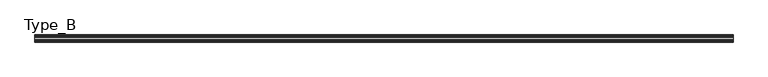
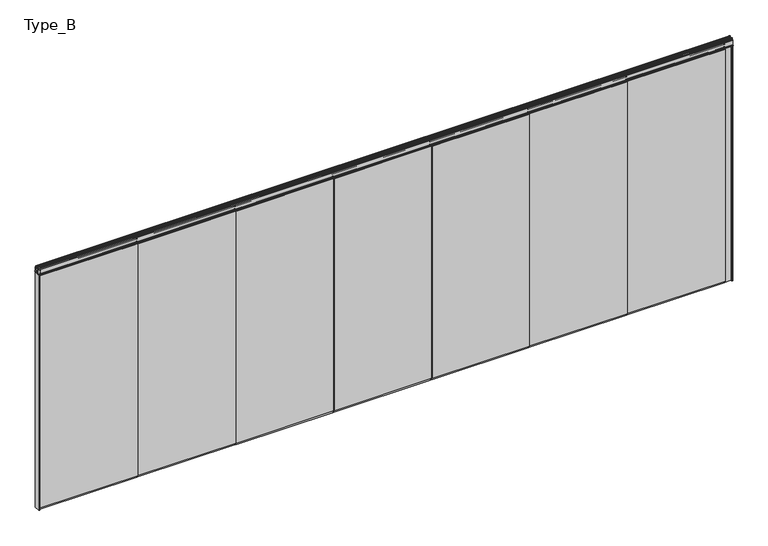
"""IFC4 building model written with IfcOpenShell, lengths in millimetres: proxy geometry, Planner Wall フラッシュパネル(NO Door) : Type_B."""

from ifc_helpers import new_model, si_unit, point, frame, frame_2d, origin, origin_with_axes, place, context, project, spatial, polyline, circle_curve, trimmed, segment, composite_curve, outline, extrude, source, transform, mapped, element, save


def type_b_39922017(model_context):
    return source(origin(), model_context, "Body", "SweptSolid", [
        extrude(outline(polyline([(-1053.6428571, 25.0), (-2223.5, 25.0), (-2223.5, 35.0), (-1053.6428571, 35.0), (-1053.6428571, 25.0)])), frame((0.0, 0.0, 25.0), z_axis=(0.0, 0.0, 1.0), x_axis=(1.0, 0.0, 0.0)), (0.0, 0.0, 1.0), 2950.0),
        extrude(outline(polyline([(-1053.6428571, -35.0), (-2223.5, -35.0), (-2223.5, -25.0), (-1053.6428571, -25.0), (-1053.6428571, -35.0)])), frame((0.0, 0.0, 25.0), z_axis=(0.0, 0.0, 1.0), x_axis=(1.0, 0.0, 0.0)), (0.0, 0.0, 1.0), 2950.0),
        extrude(outline(polyline([(-2223.5, -25.0), (-2223.5, 25.0), (-1059.1428571, 25.0), (-1059.1428571, -25.0), (-2223.5, -25.0)])), origin_with_axes(), (0.0, 0.0, 1.0), 65.0),
        extrude(outline(composite_curve([segment(polyline([(23.5, 3050.1000003), (26.5, 3047.1000003), (26.5, 3032.6)]), True, "CONTINUOUS"), segment(trimmed(circle_curve(frame_2d((25.0, 3032.6)), 1.5), [point((26.5, 3032.6))], [point((25.0, 3031.1))], False, "CARTESIAN"), True, "CONTINUOUS"), segment(polyline([(25.0, 3031.1), (9.0, 3031.1), (9.0, 3019.1000003), (23.5, 3019.1000003), (26.5, 3016.1000003), (26.5, 3001.5)]), True, "CONTINUOUS"), segment(trimmed(circle_curve(frame_2d((25.0, 3001.5)), 1.5), [point((26.5, 3001.5))], [point((25.0, 3000.0))], False, "CARTESIAN"), True, "CONTINUOUS"), segment(polyline([(25.0, 3000.0), (7.5, 3000.0), (7.5, 2994.5), (25.0, 2994.5), (25.0, 2935.0), (-25.0, 2935.0), (-25.0, 2994.5), (-7.5, 2994.5), (-7.5, 3000.0), (-25.0, 3000.0)]), True, "CONTINUOUS"), segment(trimmed(circle_curve(frame_2d((-25.0, 3001.5)), 1.5), [point((-25.0, 3000.0))], [point((-26.5, 3001.5))], False, "CARTESIAN"), True, "CONTINUOUS"), segment(polyline([(-26.5, 3001.5), (-26.5, 3016.1000003), (-23.5, 3019.1000003), (-9.0, 3019.1000003), (-9.0, 3031.1), (-25.0, 3031.1)]), True, "CONTINUOUS"), segment(trimmed(circle_curve(frame_2d((-25.0, 3032.6)), 1.5), [point((-25.0, 3031.1))], [point((-26.5, 3032.6))], False, "CARTESIAN"), True, "CONTINUOUS"), segment(polyline([(-26.5, 3032.6), (-26.5, 3047.1000003), (-23.5, 3050.1000003), (23.5, 3050.1000003)]), True, "CONTINUOUS")], self_intersect=False)), frame((-2223.5, 0.0, 0.0), z_axis=(1.0, 0.0, 0.0), x_axis=(0.0, 1.0, 0.0)), (0.0, 0.0, 1.0), 1169.8571429),
        extrude(outline(polyline([(-2237.0, -25.0), (-2237.0, 25.0), (-2223.5, 25.0), (-2223.5, -25.0), (-2237.0, -25.0)])), frame((0.0, 0.0, 53.0), z_axis=(0.0, 0.0, 1.0), x_axis=(1.0, 0.0, 0.0)), (0.0, 0.0, 1.0), 2869.0),
        extrude(outline(polyline([(124.2142857, 25.0), (-1045.6428571, 25.0), (-1045.6428571, 35.0), (124.2142857, 35.0), (124.2142857, 25.0)])), frame((0.0, 0.0, 25.0), z_axis=(0.0, 0.0, 1.0), x_axis=(1.0, 0.0, 0.0)), (0.0, 0.0, 1.0), 2950.0),
        extrude(outline(polyline([(124.2142857, -35.0), (-1045.6428571, -35.0), (-1045.6428571, -25.0), (124.2142857, -25.0), (124.2142857, -35.0)])), frame((0.0, 0.0, 25.0), z_axis=(0.0, 0.0, 1.0), x_axis=(1.0, 0.0, 0.0)), (0.0, 0.0, 1.0), 2950.0),
        extrude(outline(polyline([(-1045.6428571, -25.0), (-1045.6428571, 25.0), (118.7142857, 25.0), (118.7142857, -25.0), (-1045.6428571, -25.0)])), origin_with_axes(), (0.0, 0.0, 1.0), 65.0),
        extrude(outline(composite_curve([segment(polyline([(23.5, 3050.1000003), (26.5, 3047.1000003), (26.5, 3032.6)]), True, "CONTINUOUS"), segment(trimmed(circle_curve(frame_2d((25.0, 3032.6)), 1.5), [point((26.5, 3032.6))], [point((25.0, 3031.1))], False, "CARTESIAN"), True, "CONTINUOUS"), segment(polyline([(25.0, 3031.1), (9.0, 3031.1), (9.0, 3019.1000003), (23.5, 3019.1000003), (26.5, 3016.1000003), (26.5, 3001.5)]), True, "CONTINUOUS"), segment(trimmed(circle_curve(frame_2d((25.0, 3001.5)), 1.5), [point((26.5, 3001.5))], [point((25.0, 3000.0))], False, "CARTESIAN"), True, "CONTINUOUS"), segment(polyline([(25.0, 3000.0), (7.5, 3000.0), (7.5, 2994.5), (25.0, 2994.5), (25.0, 2935.0), (-25.0, 2935.0), (-25.0, 2994.5), (-7.5, 2994.5), (-7.5, 3000.0), (-25.0, 3000.0)]), True, "CONTINUOUS"), segment(trimmed(circle_curve(frame_2d((-25.0, 3001.5)), 1.5), [point((-25.0, 3000.0))], [point((-26.5, 3001.5))], False, "CARTESIAN"), True, "CONTINUOUS"), segment(polyline([(-26.5, 3001.5), (-26.5, 3016.1000003), (-23.5, 3019.1000003), (-9.0, 3019.1000003), (-9.0, 3031.1), (-25.0, 3031.1)]), True, "CONTINUOUS"), segment(trimmed(circle_curve(frame_2d((-25.0, 3032.6)), 1.5), [point((-25.0, 3031.1))], [point((-26.5, 3032.6))], False, "CARTESIAN"), True, "CONTINUOUS"), segment(polyline([(-26.5, 3032.6), (-26.5, 3047.1000003), (-23.5, 3050.1000003), (23.5, 3050.1000003)]), True, "CONTINUOUS")], self_intersect=False)), frame((-1045.6428571, 0.0, 0.0), z_axis=(1.0, 0.0, 0.0), x_axis=(0.0, 1.0, 0.0)), (0.0, 0.0, 1.0), 1169.8571429),
        extrude(outline(polyline([(-1059.1428571, -25.0), (-1059.1428571, 25.0), (-1045.6428571, 25.0), (-1045.6428571, -25.0), (-1059.1428571, -25.0)])), frame((0.0, 0.0, 53.0), z_axis=(0.0, 0.0, 1.0), x_axis=(1.0, 0.0, 0.0)), (0.0, 0.0, 1.0), 2869.0),
        extrude(outline(polyline([(1302.0714286, 25.0), (132.2142857, 25.0), (132.2142857, 35.0), (1302.0714286, 35.0), (1302.0714286, 25.0)])), frame((0.0, 0.0, 25.0), z_axis=(0.0, 0.0, 1.0), x_axis=(1.0, 0.0, 0.0)), (0.0, 0.0, 1.0), 2950.0),
        extrude(outline(polyline([(1302.0714286, -35.0), (132.2142857, -35.0), (132.2142857, -25.0), (1302.0714286, -25.0), (1302.0714286, -35.0)])), frame((0.0, 0.0, 25.0), z_axis=(0.0, 0.0, 1.0), x_axis=(1.0, 0.0, 0.0)), (0.0, 0.0, 1.0), 2950.0),
        extrude(outline(polyline([(132.2142857, -25.0), (132.2142857, 25.0), (1296.5714286, 25.0), (1296.5714286, -25.0), (132.2142857, -25.0)])), origin_with_axes(), (0.0, 0.0, 1.0), 65.0),
        extrude(outline(composite_curve([segment(polyline([(23.5, 3050.1000003), (26.5, 3047.1000003), (26.5, 3032.6)]), True, "CONTINUOUS"), segment(trimmed(circle_curve(frame_2d((25.0, 3032.6)), 1.5), [point((26.5, 3032.6))], [point((25.0, 3031.1))], False, "CARTESIAN"), True, "CONTINUOUS"), segment(polyline([(25.0, 3031.1), (9.0, 3031.1), (9.0, 3019.1000003), (23.5, 3019.1000003), (26.5, 3016.1000003), (26.5, 3001.5)]), True, "CONTINUOUS"), segment(trimmed(circle_curve(frame_2d((25.0, 3001.5)), 1.5), [point((26.5, 3001.5))], [point((25.0, 3000.0))], False, "CARTESIAN"), True, "CONTINUOUS"), segment(polyline([(25.0, 3000.0), (7.5, 3000.0), (7.5, 2994.5), (25.0, 2994.5), (25.0, 2935.0), (-25.0, 2935.0), (-25.0, 2994.5), (-7.5, 2994.5), (-7.5, 3000.0), (-25.0, 3000.0)]), True, "CONTINUOUS"), segment(trimmed(circle_curve(frame_2d((-25.0, 3001.5)), 1.5), [point((-25.0, 3000.0))], [point((-26.5, 3001.5))], False, "CARTESIAN"), True, "CONTINUOUS"), segment(polyline([(-26.5, 3001.5), (-26.5, 3016.1000003), (-23.5, 3019.1000003), (-9.0, 3019.1000003), (-9.0, 3031.1), (-25.0, 3031.1)]), True, "CONTINUOUS"), segment(trimmed(circle_curve(frame_2d((-25.0, 3032.6)), 1.5), [point((-25.0, 3031.1))], [point((-26.5, 3032.6))], False, "CARTESIAN"), True, "CONTINUOUS"), segment(polyline([(-26.5, 3032.6), (-26.5, 3047.1000003), (-23.5, 3050.1000003), (23.5, 3050.1000003)]), True, "CONTINUOUS")], self_intersect=False)), frame((132.2142857, 0.0, 0.0), z_axis=(1.0, 0.0, 0.0), x_axis=(0.0, 1.0, 0.0)), (0.0, 0.0, 1.0), 1169.8571429),
        extrude(outline(polyline([(118.7142857, -25.0), (118.7142857, 25.0), (132.2142857, 25.0), (132.2142857, -25.0), (118.7142857, -25.0)])), frame((0.0, 0.0, 53.0), z_axis=(0.0, 0.0, 1.0), x_axis=(1.0, 0.0, 0.0)), (0.0, 0.0, 1.0), 2869.0),
        extrude(outline(polyline([(2479.9285714, 25.0), (1310.0714286, 25.0), (1310.0714286, 35.0), (2479.9285714, 35.0), (2479.9285714, 25.0)])), frame((0.0, 0.0, 25.0), z_axis=(0.0, 0.0, 1.0), x_axis=(1.0, 0.0, 0.0)), (0.0, 0.0, 1.0), 2950.0),
        extrude(outline(polyline([(2479.9285714, -35.0), (1310.0714286, -35.0), (1310.0714286, -25.0), (2479.9285714, -25.0), (2479.9285714, -35.0)])), frame((0.0, 0.0, 25.0), z_axis=(0.0, 0.0, 1.0), x_axis=(1.0, 0.0, 0.0)), (0.0, 0.0, 1.0), 2950.0),
        extrude(outline(polyline([(1310.0714286, -25.0), (1310.0714286, 25.0), (2474.4285714, 25.0), (2474.4285714, -25.0), (1310.0714286, -25.0)])), origin_with_axes(), (0.0, 0.0, 1.0), 65.0),
        extrude(outline(composite_curve([segment(polyline([(23.5, 3050.1000003), (26.5, 3047.1000003), (26.5, 3032.6)]), True, "CONTINUOUS"), segment(trimmed(circle_curve(frame_2d((25.0, 3032.6)), 1.5), [point((26.5, 3032.6))], [point((25.0, 3031.1))], False, "CARTESIAN"), True, "CONTINUOUS"), segment(polyline([(25.0, 3031.1), (9.0, 3031.1), (9.0, 3019.1000003), (23.5, 3019.1000003), (26.5, 3016.1000003), (26.5, 3001.5)]), True, "CONTINUOUS"), segment(trimmed(circle_curve(frame_2d((25.0, 3001.5)), 1.5), [point((26.5, 3001.5))], [point((25.0, 3000.0))], False, "CARTESIAN"), True, "CONTINUOUS"), segment(polyline([(25.0, 3000.0), (7.5, 3000.0), (7.5, 2994.5), (25.0, 2994.5), (25.0, 2935.0), (-25.0, 2935.0), (-25.0, 2994.5), (-7.5, 2994.5), (-7.5, 3000.0), (-25.0, 3000.0)]), True, "CONTINUOUS"), segment(trimmed(circle_curve(frame_2d((-25.0, 3001.5)), 1.5), [point((-25.0, 3000.0))], [point((-26.5, 3001.5))], False, "CARTESIAN"), True, "CONTINUOUS"), segment(polyline([(-26.5, 3001.5), (-26.5, 3016.1000003), (-23.5, 3019.1000003), (-9.0, 3019.1000003), (-9.0, 3031.1), (-25.0, 3031.1)]), True, "CONTINUOUS"), segment(trimmed(circle_curve(frame_2d((-25.0, 3032.6)), 1.5), [point((-25.0, 3031.1))], [point((-26.5, 3032.6))], False, "CARTESIAN"), True, "CONTINUOUS"), segment(polyline([(-26.5, 3032.6), (-26.5, 3047.1000003), (-23.5, 3050.1000003), (23.5, 3050.1000003)]), True, "CONTINUOUS")], self_intersect=False)), frame((1310.0714286, 0.0, 0.0), z_axis=(1.0, 0.0, 0.0), x_axis=(0.0, 1.0, 0.0)), (0.0, 0.0, 1.0), 1169.8571429),
        extrude(outline(polyline([(1296.5714286, -25.0), (1296.5714286, 25.0), (1310.0714286, 25.0), (1310.0714286, -25.0), (1296.5714286, -25.0)])), frame((0.0, 0.0, 53.0), z_axis=(0.0, 0.0, 1.0), x_axis=(1.0, 0.0, 0.0)), (0.0, 0.0, 1.0), 2869.0),
        extrude(outline(polyline([(3657.7857143, 25.0), (2487.9285714, 25.0), (2487.9285714, 35.0), (3657.7857143, 35.0), (3657.7857143, 25.0)])), frame((0.0, 0.0, 25.0), z_axis=(0.0, 0.0, 1.0), x_axis=(1.0, 0.0, 0.0)), (0.0, 0.0, 1.0), 2950.0),
        extrude(outline(polyline([(3657.7857143, -35.0), (2487.9285714, -35.0), (2487.9285714, -25.0), (3657.7857143, -25.0), (3657.7857143, -35.0)])), frame((0.0, 0.0, 25.0), z_axis=(0.0, 0.0, 1.0), x_axis=(1.0, 0.0, 0.0)), (0.0, 0.0, 1.0), 2950.0),
        extrude(outline(polyline([(2487.9285714, -25.0), (2487.9285714, 25.0), (3652.2857143, 25.0), (3652.2857143, -25.0), (2487.9285714, -25.0)])), origin_with_axes(), (0.0, 0.0, 1.0), 65.0),
        extrude(outline(composite_curve([segment(polyline([(23.5, 3050.1000003), (26.5, 3047.1000003), (26.5, 3032.6)]), True, "CONTINUOUS"), segment(trimmed(circle_curve(frame_2d((25.0, 3032.6)), 1.5), [point((26.5, 3032.6))], [point((25.0, 3031.1))], False, "CARTESIAN"), True, "CONTINUOUS"), segment(polyline([(25.0, 3031.1), (9.0, 3031.1), (9.0, 3019.1000003), (23.5, 3019.1000003), (26.5, 3016.1000003), (26.5, 3001.5)]), True, "CONTINUOUS"), segment(trimmed(circle_curve(frame_2d((25.0, 3001.5)), 1.5), [point((26.5, 3001.5))], [point((25.0, 3000.0))], False, "CARTESIAN"), True, "CONTINUOUS"), segment(polyline([(25.0, 3000.0), (7.5, 3000.0), (7.5, 2994.5), (25.0, 2994.5), (25.0, 2935.0), (-25.0, 2935.0), (-25.0, 2994.5), (-7.5, 2994.5), (-7.5, 3000.0), (-25.0, 3000.0)]), True, "CONTINUOUS"), segment(trimmed(circle_curve(frame_2d((-25.0, 3001.5)), 1.5), [point((-25.0, 3000.0))], [point((-26.5, 3001.5))], False, "CARTESIAN"), True, "CONTINUOUS"), segment(polyline([(-26.5, 3001.5), (-26.5, 3016.1000003), (-23.5, 3019.1000003), (-9.0, 3019.1000003), (-9.0, 3031.1), (-25.0, 3031.1)]), True, "CONTINUOUS"), segment(trimmed(circle_curve(frame_2d((-25.0, 3032.6)), 1.5), [point((-25.0, 3031.1))], [point((-26.5, 3032.6))], False, "CARTESIAN"), True, "CONTINUOUS"), segment(polyline([(-26.5, 3032.6), (-26.5, 3047.1000003), (-23.5, 3050.1000003), (23.5, 3050.1000003)]), True, "CONTINUOUS")], self_intersect=False)), frame((2487.9285714, 0.0, 0.0), z_axis=(1.0, 0.0, 0.0), x_axis=(0.0, 1.0, 0.0)), (0.0, 0.0, 1.0), 1169.8571429),
        extrude(outline(polyline([(2474.4285714, -25.0), (2474.4285714, 25.0), (2487.9285714, 25.0), (2487.9285714, -25.0), (2474.4285714, -25.0)])), frame((0.0, 0.0, 53.0), z_axis=(0.0, 0.0, 1.0), x_axis=(1.0, 0.0, 0.0)), (0.0, 0.0, 1.0), 2869.0),
        extrude(outline(polyline([(4835.6428571, 25.0), (3665.7857143, 25.0), (3665.7857143, 35.0), (4835.6428571, 35.0), (4835.6428571, 25.0)])), frame((0.0, 0.0, 25.0), z_axis=(0.0, 0.0, 1.0), x_axis=(1.0, 0.0, 0.0)), (0.0, 0.0, 1.0), 2950.0),
        extrude(outline(polyline([(4835.6428571, -35.0), (3665.7857143, -35.0), (3665.7857143, -25.0), (4835.6428571, -25.0), (4835.6428571, -35.0)])), frame((0.0, 0.0, 25.0), z_axis=(0.0, 0.0, 1.0), x_axis=(1.0, 0.0, 0.0)), (0.0, 0.0, 1.0), 2950.0),
        extrude(outline(polyline([(3665.7857143, -25.0), (3665.7857143, 25.0), (4830.1428571, 25.0), (4830.1428571, -25.0), (3665.7857143, -25.0)])), origin_with_axes(), (0.0, 0.0, 1.0), 65.0),
        extrude(outline(composite_curve([segment(polyline([(23.5, 3050.1000003), (26.5, 3047.1000003), (26.5, 3032.6)]), True, "CONTINUOUS"), segment(trimmed(circle_curve(frame_2d((25.0, 3032.6)), 1.5), [point((26.5, 3032.6))], [point((25.0, 3031.1))], False, "CARTESIAN"), True, "CONTINUOUS"), segment(polyline([(25.0, 3031.1), (9.0, 3031.1), (9.0, 3019.1000003), (23.5, 3019.1000003), (26.5, 3016.1000003), (26.5, 3001.5)]), True, "CONTINUOUS"), segment(trimmed(circle_curve(frame_2d((25.0, 3001.5)), 1.5), [point((26.5, 3001.5))], [point((25.0, 3000.0))], False, "CARTESIAN"), True, "CONTINUOUS"), segment(polyline([(25.0, 3000.0), (7.5, 3000.0), (7.5, 2994.5), (25.0, 2994.5), (25.0, 2935.0), (-25.0, 2935.0), (-25.0, 2994.5), (-7.5, 2994.5), (-7.5, 3000.0), (-25.0, 3000.0)]), True, "CONTINUOUS"), segment(trimmed(circle_curve(frame_2d((-25.0, 3001.5)), 1.5), [point((-25.0, 3000.0))], [point((-26.5, 3001.5))], False, "CARTESIAN"), True, "CONTINUOUS"), segment(polyline([(-26.5, 3001.5), (-26.5, 3016.1000003), (-23.5, 3019.1000003), (-9.0, 3019.1000003), (-9.0, 3031.1), (-25.0, 3031.1)]), True, "CONTINUOUS"), segment(trimmed(circle_curve(frame_2d((-25.0, 3032.6)), 1.5), [point((-25.0, 3031.1))], [point((-26.5, 3032.6))], False, "CARTESIAN"), True, "CONTINUOUS"), segment(polyline([(-26.5, 3032.6), (-26.5, 3047.1000003), (-23.5, 3050.1000003), (23.5, 3050.1000003)]), True, "CONTINUOUS")], self_intersect=False)), frame((3665.7857143, 0.0, 0.0), z_axis=(1.0, 0.0, 0.0), x_axis=(0.0, 1.0, 0.0)), (0.0, 0.0, 1.0), 1169.8571429),
        extrude(outline(polyline([(3652.2857143, -25.0), (3652.2857143, 25.0), (3665.7857143, 25.0), (3665.7857143, -25.0), (3652.2857143, -25.0)])), frame((0.0, 0.0, 53.0), z_axis=(0.0, 0.0, 1.0), x_axis=(1.0, 0.0, 0.0)), (0.0, 0.0, 1.0), 2869.0),
        extrude(outline(polyline([(4843.6428571, -25.0), (4843.6428571, 25.0), (6008.0, 25.0), (6008.0, -25.0), (4843.6428571, -25.0)])), origin_with_axes(), (0.0, 0.0, 1.0), 65.0),
        extrude(outline(polyline([(6008.0, -19.5), (6008.0, 19.5), (6090.5, 19.5), (6090.5, 25.0), (6097.0, 25.0), (6097.0, -25.0), (6090.5, -25.0), (6090.5, -19.5), (6008.0, -19.5)])), origin_with_axes(), (0.0, 0.0, 1.0), 2994.0),
        extrude(outline(composite_curve([segment(polyline([(23.5, 3050.1000003), (26.5, 3047.1000003), (26.5, 3032.6)]), True, "CONTINUOUS"), segment(trimmed(circle_curve(frame_2d((25.0, 3032.6)), 1.5), [point((26.5, 3032.6))], [point((25.0, 3031.1))], False, "CARTESIAN"), True, "CONTINUOUS"), segment(polyline([(25.0, 3031.1), (9.0, 3031.1), (9.0, 3019.1000003), (23.5, 3019.1000003), (26.5, 3016.1000003), (26.5, 3001.5)]), True, "CONTINUOUS"), segment(trimmed(circle_curve(frame_2d((25.0, 3001.5)), 1.5), [point((26.5, 3001.5))], [point((25.0, 3000.0))], False, "CARTESIAN"), True, "CONTINUOUS"), segment(polyline([(25.0, 3000.0), (7.5, 3000.0), (7.5, 2994.5), (25.0, 2994.5), (25.0, 2935.0), (-25.0, 2935.0), (-25.0, 2994.5), (-7.5, 2994.5), (-7.5, 3000.0), (-25.0, 3000.0)]), True, "CONTINUOUS"), segment(trimmed(circle_curve(frame_2d((-25.0, 3001.5)), 1.5), [point((-25.0, 3000.0))], [point((-26.5, 3001.5))], False, "CARTESIAN"), True, "CONTINUOUS"), segment(polyline([(-26.5, 3001.5), (-26.5, 3016.1000003), (-23.5, 3019.1000003), (-9.0, 3019.1000003), (-9.0, 3031.1), (-25.0, 3031.1)]), True, "CONTINUOUS"), segment(trimmed(circle_curve(frame_2d((-25.0, 3032.6)), 1.5), [point((-25.0, 3031.1))], [point((-26.5, 3032.6))], False, "CARTESIAN"), True, "CONTINUOUS"), segment(polyline([(-26.5, 3032.6), (-26.5, 3047.1000003), (-23.5, 3050.1000003), (23.5, 3050.1000003)]), True, "CONTINUOUS")], self_intersect=False)), frame((4843.6428571, 0.0, 0.0), z_axis=(1.0, 0.0, 0.0), x_axis=(0.0, 1.0, 0.0)), (0.0, 0.0, 1.0), 1169.8571429),
        extrude(outline(polyline([(6013.5, 24.9), (4843.6428571, 24.9), (4843.6428571, 35.0), (6013.5, 35.0), (6013.5, 24.9)])), frame((0.0, 0.0, 25.0), z_axis=(0.0, 0.0, 1.0), x_axis=(1.0, 0.0, 0.0)), (0.0, 0.0, 1.0), 2950.0),
        extrude(outline(polyline([(6013.5, -35.0), (4843.6428571, -35.0), (4843.6428571, -24.9), (6013.5, -24.9), (6013.5, -35.0)])), frame((0.0, 0.0, 25.0), z_axis=(0.0, 0.0, 1.0), x_axis=(1.0, 0.0, 0.0)), (0.0, 0.0, 1.0), 2950.0),
        extrude(outline(polyline([(4830.1428571, -25.0), (4830.1428571, 25.0), (4843.6428571, 25.0), (4843.6428571, -25.0), (4830.1428571, -25.0)])), frame((0.0, 0.0, 78.0), z_axis=(0.0, 0.0, 1.0), x_axis=(1.0, 0.0, 0.0)), (0.0, 0.0, 1.0), 2897.0),
        extrude(outline(polyline([(-2245.0, -35.0), (-2245.0, 35.0), (-2231.5, 35.0), (-2231.5, 25.0), (-2237.0, 25.0), (-2237.0, -25.0), (-2231.5, -25.0), (-2231.5, -35.0), (-2245.0, -35.0)])), origin_with_axes(), (0.0, 0.0, 1.0), 2994.0),
        extrude(outline(composite_curve([segment(trimmed(circle_curve(frame_2d((-26.5, 3056.0)), 5.0), [point((-31.5, 3056.0))], [point((-26.1165175, 3060.9852724))], False, "CARTESIAN"), True, "CONTINUOUS"), segment(polyline([(-26.1165175, 3060.9852724), (-24.5, 3060.9852724), (-24.5, 3075.0)]), True, "CONTINUOUS"), segment(trimmed(circle_curve(frame_2d((-21.5, 3075.0)), 3.0), [point((-24.5, 3075.0))], [point((-21.5, 3078.0))], False, "CARTESIAN"), True, "CONTINUOUS"), segment(polyline([(-21.5, 3078.0), (-14.0, 3078.0)]), True, "CONTINUOUS"), segment(trimmed(circle_curve(frame_2d((-14.0, 3076.5)), 1.5), [point((-14.0, 3078.0))], [point((-12.5, 3076.5))], False, "CARTESIAN"), True, "CONTINUOUS"), segment(polyline([(-12.5, 3076.5), (-12.5, 3074.5)]), True, "CONTINUOUS"), segment(trimmed(circle_curve(frame_2d((-13.0, 3074.5)), 0.5), [point((-12.5, 3074.5))], [point((-13.0, 3074.0))], False, "CARTESIAN"), True, "CONTINUOUS"), segment(polyline([(-13.0, 3074.0), (-19.0, 3074.0)]), True, "CONTINUOUS"), segment(trimmed(circle_curve(frame_2d((-19.0, 3072.5)), 1.5), [point((-19.0, 3074.0))], [point((-20.5, 3072.5))], True, "CARTESIAN"), True, "CONTINUOUS"), segment(polyline([(-20.5, 3072.5), (-20.5, 3062.5)]), True, "CONTINUOUS"), segment(trimmed(circle_curve(frame_2d((-19.0, 3062.5)), 1.5), [point((-20.5, 3062.5))], [point((-19.0, 3061.0))], True, "CARTESIAN"), True, "CONTINUOUS"), segment(polyline([(-19.0, 3061.0), (19.0, 3061.0)]), True, "CONTINUOUS"), segment(trimmed(circle_curve(frame_2d((19.0, 3062.5)), 1.5), [point((19.0, 3061.0))], [point((20.5, 3062.5))], True, "CARTESIAN"), True, "CONTINUOUS"), segment(polyline([(20.5, 3062.5), (20.5, 3072.5)]), True, "CONTINUOUS"), segment(trimmed(circle_curve(frame_2d((19.0, 3072.5)), 1.5), [point((20.5, 3072.5))], [point((19.0, 3074.0))], True, "CARTESIAN"), True, "CONTINUOUS"), segment(polyline([(19.0, 3074.0), (13.0, 3074.0)]), True, "CONTINUOUS"), segment(trimmed(circle_curve(frame_2d((13.0, 3074.5)), 0.5), [point((13.0, 3074.0))], [point((12.5, 3074.5))], False, "CARTESIAN"), True, "CONTINUOUS"), segment(polyline([(12.5, 3074.5), (12.5, 3076.5)]), True, "CONTINUOUS"), segment(trimmed(circle_curve(frame_2d((14.0, 3076.5)), 1.5), [point((12.5, 3076.5))], [point((14.0, 3078.0))], False, "CARTESIAN"), True, "CONTINUOUS"), segment(polyline([(14.0, 3078.0), (21.5, 3078.0)]), True, "CONTINUOUS"), segment(trimmed(circle_curve(frame_2d((21.5, 3075.0)), 3.0), [point((21.5, 3078.0))], [point((24.5, 3075.0))], False, "CARTESIAN"), True, "CONTINUOUS"), segment(polyline([(24.5, 3075.0), (24.5, 3060.9852724), (26.1165175, 3060.9852724)]), True, "CONTINUOUS"), segment(trimmed(circle_curve(frame_2d((26.5, 3056.0)), 5.0), [point((26.1165175, 3060.9852724))], [point((31.5, 3056.0))], False, "CARTESIAN"), True, "CONTINUOUS"), segment(polyline([(31.5, 3056.0), (31.5, 3000.0), (42.5, 3000.0), (42.5, 2994.0), (11.0, 2994.0), (11.0, 3000.0), (26.9, 3000.0), (26.9, 3007.0786797), (27.9, 3009.3213203), (27.9, 3052.0)]), True, "CONTINUOUS"), segment(trimmed(circle_curve(frame_2d((22.9, 3052.0)), 5.0), [point((27.9, 3052.0))], [point((22.9, 3057.0))], True, "CARTESIAN"), True, "CONTINUOUS"), segment(polyline([(22.9, 3057.0), (-22.9, 3057.0)]), True, "CONTINUOUS"), segment(trimmed(circle_curve(frame_2d((-22.9, 3052.0)), 5.0), [point((-22.9, 3057.0))], [point((-27.9, 3052.0))], True, "CARTESIAN"), True, "CONTINUOUS"), segment(polyline([(-27.9, 3052.0), (-27.9, 3009.3213203), (-26.9, 3007.0786797), (-26.9, 3000.0), (-11.0, 3000.0), (-11.0, 2994.0), (-42.5, 2994.0), (-42.5, 3000.0), (-31.5, 3000.0), (-31.5, 3056.0)]), True, "CONTINUOUS")], self_intersect=False)), frame((-2245.0, 0.0, 0.0), z_axis=(1.0, 0.0, 0.0), x_axis=(0.0, 1.0, 0.0)), (0.0, 0.0, 1.0), 8350.0),
        extrude(outline(polyline([(6105.0, -35.0), (6091.5, -35.0), (6091.5, -25.0), (6097.0, -25.0), (6097.0, 25.0), (6091.5, 25.0), (6091.5, 35.0), (6105.0, 35.0), (6105.0, -35.0)])), origin_with_axes(), (0.0, 0.0, 1.0), 2994.0),
    ])


if __name__ == "__main__":
    model = new_model("IFC4")
    model_context = context("Model", 3, world=origin())
    ifc_project = project(units=[si_unit("LENGTHUNIT", "METRE", prefix="MILLI")], contexts=[model_context])
    site = spatial("IfcSite", under=ifc_project)
    building = spatial("IfcBuilding", under=site)
    placement = place(None, origin())
    type_b_shape = type_b_39922017(model_context)
    element("IfcBuildingElementProxy", 1, Name="Planner Wall フラッシュパネル(NO Door) : Type_B", ObjectType="Planner Wall フラッシュパネル(NO Door) : Type_B", at=placement, inside=building, context=model_context, shape_type="MappedRepresentation", body=[
        mapped(type_b_shape, transform((0.0, 0.0, 0.0), x_axis=(1.0, 0.0, 0.0), y_axis=(0.0, 1.0, 0.0), z_axis=(0.0, 0.0, 1.0))),
    ])
    save(model, "model.ifc")
